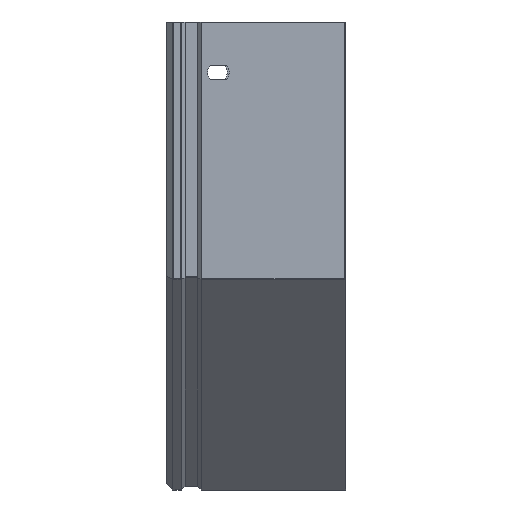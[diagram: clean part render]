
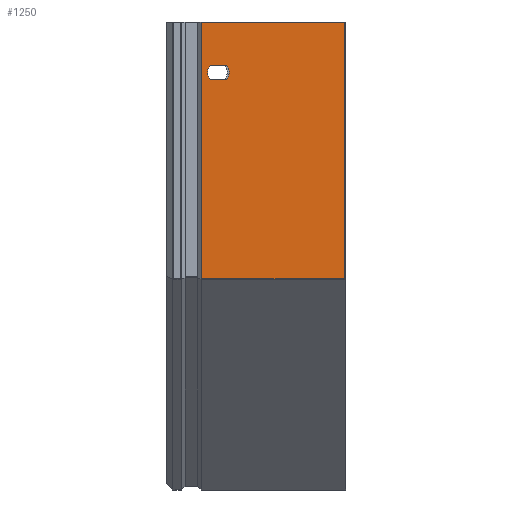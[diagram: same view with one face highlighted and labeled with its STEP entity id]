
A CAD part, left-side view. The second image highlights one B-rep face of the part: STEP entity #1250.
In plain terms, the highlighted planar face has unit normal (-1, 0, 0).
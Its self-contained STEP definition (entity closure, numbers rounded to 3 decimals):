
#100 = CARTESIAN_POINT ( 'NONE',  ( -260.38, 70., 232.38 ) ) ;
#138 = ORIENTED_EDGE ( 'NONE', *, *, #1265, .T. ) ;
#254 = CARTESIAN_POINT ( 'NONE',  ( -260.38, 74.472, 228.38 ) ) ;
#296 = CARTESIAN_POINT ( 'NONE',  ( -260.38, 65.528, 236.38 ) ) ;
#368 = LINE ( 'NONE', #677, #4102 ) ;
#429 = VECTOR ( 'NONE', #838, 1000. ) ;
#434 = EDGE_CURVE ( 'NONE', #2440, #1204, #368, .T. ) ;
#520 = EDGE_CURVE ( 'NONE', #2083, #2972, #2388, .T. ) ;
#569 = EDGE_CURVE ( 'NONE', #1204, #2536, #3252, .T. ) ;
#583 = CARTESIAN_POINT ( 'NONE',  ( -260.38, -1., 260.38 ) ) ;
#631 = VECTOR ( 'NONE', #1354, 1000. ) ;
#677 = CARTESIAN_POINT ( 'NONE',  ( -260.38, 74.472, 236.38 ) ) ;
#838 = DIRECTION ( 'NONE',  ( 0., 1., 0. ) ) ;
#1048 = CARTESIAN_POINT ( 'NONE',  ( -260.38, 79.5, 117.38 ) ) ;
#1186 = ORIENTED_EDGE ( 'NONE', *, *, #520, .F. ) ;
#1204 = VERTEX_POINT ( 'NONE', #296 ) ;
#1221 = DIRECTION ( 'NONE',  ( 1., 0., 0. ) ) ;
#1243 = VERTEX_POINT ( 'NONE', #583 ) ;
#1250 = ADVANCED_FACE ( 'NONE', ( #1627, #2316 ), #1605, .T. ) ;
#1265 = EDGE_CURVE ( 'NONE', #2083, #1628, #2938, .T. ) ;
#1270 = AXIS2_PLACEMENT_3D ( 'NONE', #2977, #2296, #2955 ) ;
#1354 = DIRECTION ( 'NONE',  ( 0., 0., 1. ) ) ;
#1355 = EDGE_CURVE ( 'NONE', #1628, #1243, #2023, .T. ) ;
#1370 = ORIENTED_EDGE ( 'NONE', *, *, #2710, .T. ) ;
#1506 = CARTESIAN_POINT ( 'NONE',  ( -260.38, 74.472, 228.38 ) ) ;
#1535 = CARTESIAN_POINT ( 'NONE',  ( -260.38, -1., 117.38 ) ) ;
#1605 = PLANE ( 'NONE',  #1270 ) ;
#1627 = FACE_BOUND ( 'NONE', #2329, .T. ) ;
#1628 = VERTEX_POINT ( 'NONE', #1535 ) ;
#1697 = CARTESIAN_POINT ( 'NONE',  ( -260.38, 0., 260.38 ) ) ;
#1764 = LINE ( 'NONE', #1697, #2138 ) ;
#2023 = LINE ( 'NONE', #3354, #631 ) ;
#2083 = VERTEX_POINT ( 'NONE', #3428 ) ;
#2131 = CIRCLE ( 'NONE', #3267, 6. ) ;
#2138 = VECTOR ( 'NONE', #3076, 1000. ) ;
#2177 = LINE ( 'NONE', #1506, #429 ) ;
#2206 = ORIENTED_EDGE ( 'NONE', *, *, #434, .T. ) ;
#2219 = ORIENTED_EDGE ( 'NONE', *, *, #3368, .T. ) ;
#2296 = DIRECTION ( 'NONE',  ( -1., 0., 0. ) ) ;
#2316 = FACE_OUTER_BOUND ( 'NONE', #2884, .T. ) ;
#2329 = EDGE_LOOP ( 'NONE', ( #1370, #2206, #4280, #3080 ) ) ;
#2331 = AXIS2_PLACEMENT_3D ( 'NONE', #100, #2697, #3584 ) ;
#2388 = LINE ( 'NONE', #1048, #3893 ) ;
#2440 = VERTEX_POINT ( 'NONE', #3017 ) ;
#2536 = VERTEX_POINT ( 'NONE', #2747 ) ;
#2551 = CARTESIAN_POINT ( 'NONE',  ( -260.38, 70., 232.38 ) ) ;
#2658 = EDGE_CURVE ( 'NONE', #2536, #4228, #2177, .T. ) ;
#2697 = DIRECTION ( 'NONE',  ( 1., 0., 0. ) ) ;
#2710 = EDGE_CURVE ( 'NONE', #4228, #2440, #2131, .T. ) ;
#2747 = CARTESIAN_POINT ( 'NONE',  ( -260.38, 65.528, 228.38 ) ) ;
#2884 = EDGE_LOOP ( 'NONE', ( #138, #3161, #2219, #1186 ) ) ;
#2938 = LINE ( 'NONE', #4320, #3327 ) ;
#2955 = DIRECTION ( 'NONE',  ( 0., 0., 1. ) ) ;
#2972 = VERTEX_POINT ( 'NONE', #4057 ) ;
#2977 = CARTESIAN_POINT ( 'NONE',  ( -260.38, 0., 117.38 ) ) ;
#3017 = CARTESIAN_POINT ( 'NONE',  ( -260.38, 74.472, 236.38 ) ) ;
#3076 = DIRECTION ( 'NONE',  ( 0., 1., 0. ) ) ;
#3080 = ORIENTED_EDGE ( 'NONE', *, *, #2658, .T. ) ;
#3161 = ORIENTED_EDGE ( 'NONE', *, *, #1355, .T. ) ;
#3252 = CIRCLE ( 'NONE', #2331, 6. ) ;
#3267 = AXIS2_PLACEMENT_3D ( 'NONE', #2551, #1221, #3503 ) ;
#3327 = VECTOR ( 'NONE', #3978, 1000. ) ;
#3354 = CARTESIAN_POINT ( 'NONE',  ( -260.38, -1., 117.38 ) ) ;
#3368 = EDGE_CURVE ( 'NONE', #1243, #2972, #1764, .T. ) ;
#3428 = CARTESIAN_POINT ( 'NONE',  ( -260.38, 79.5, 117.38 ) ) ;
#3430 = DIRECTION ( 'NONE',  ( 0., 0., 1. ) ) ;
#3503 = DIRECTION ( 'NONE',  ( 0., 0., -1. ) ) ;
#3584 = DIRECTION ( 'NONE',  ( 0., 0., -1. ) ) ;
#3893 = VECTOR ( 'NONE', #3430, 1000. ) ;
#3978 = DIRECTION ( 'NONE',  ( 0., -1., 0. ) ) ;
#4057 = CARTESIAN_POINT ( 'NONE',  ( -260.38, 79.5, 260.38 ) ) ;
#4076 = DIRECTION ( 'NONE',  ( 0., -1., 0. ) ) ;
#4102 = VECTOR ( 'NONE', #4076, 1000. ) ;
#4228 = VERTEX_POINT ( 'NONE', #254 ) ;
#4280 = ORIENTED_EDGE ( 'NONE', *, *, #569, .T. ) ;
#4320 = CARTESIAN_POINT ( 'NONE',  ( -260.38, 0., 117.38 ) ) ;
